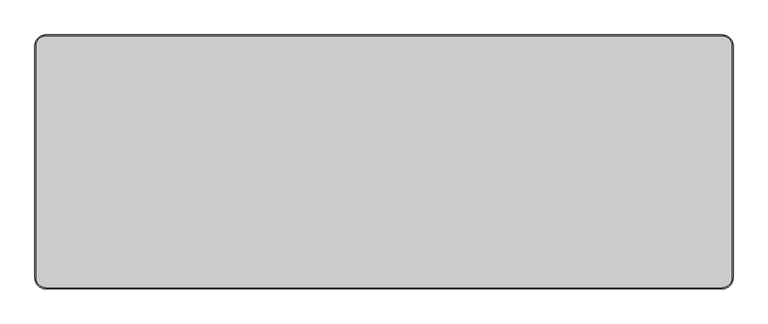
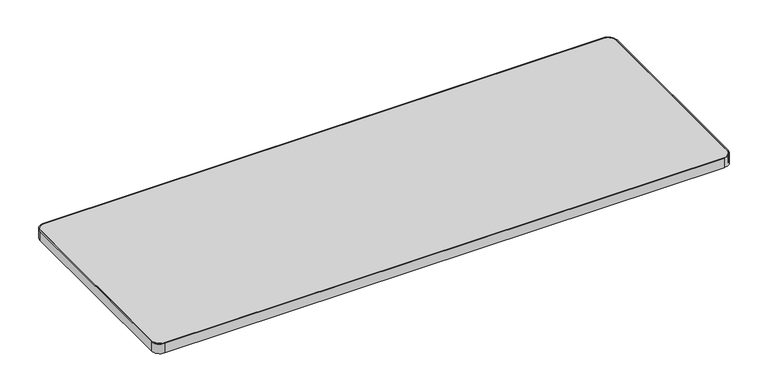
"""IFC4 building model written with IfcOpenShell, lengths in millimetres: furniture geometry, Steelcase - Groupwork - Table - Top - Rectangular : 24D x 66W - HPL."""

from ifc_helpers import new_model, si_unit, point, frame, frame_2d, origin, place, context, project, spatial, polyline, circle_curve, trimmed, segment, composite_curve, outline, extrude, source, transform, mapped, element, save


def furniture_efd10311(model_context):
    return source(origin(), model_context, "Body", "SweptSolid", [
        extrude(outline(composite_curve([segment(polyline([(-840.74, 301.8), (783.94, 301.8)]), True, "CONTINUOUS"), segment(trimmed(circle_curve(frame_2d((783.94, 278.94)), 22.86), [point((783.94, 301.8))], [point((806.8, 278.94))], False, "CARTESIAN"), True, "CONTINUOUS"), segment(polyline([(806.8, 278.94), (806.8, -278.94)]), True, "CONTINUOUS"), segment(trimmed(circle_curve(frame_2d((783.94, -278.94)), 22.86), [point((806.8, -278.94))], [point((783.94, -301.8))], False, "CARTESIAN"), True, "CONTINUOUS"), segment(polyline([(783.94, -301.8), (-840.74, -301.8)]), True, "CONTINUOUS"), segment(trimmed(circle_curve(frame_2d((-840.74, -278.94)), 22.86), [point((-840.74, -301.8))], [point((-863.6, -278.94))], False, "CARTESIAN"), True, "CONTINUOUS"), segment(polyline([(-863.6, -278.94), (-863.6, 278.94)]), True, "CONTINUOUS"), segment(trimmed(circle_curve(frame_2d((-840.74, 278.94)), 22.86), [point((-863.6, 278.94))], [point((-840.74, 301.8))], False, "CARTESIAN"), True, "CONTINUOUS")], self_intersect=False)), frame((0.0, 0.0, 694.944), z_axis=(0.0, 0.0, 1.0), x_axis=(1.0, 0.0, 0.0)), (0.0, 0.0, 1.0), 28.956),
        extrude(outline(composite_curve([segment(trimmed(circle_curve(frame_2d((784.3385373, 279.3385373)), 25.4614627), [point((784.3385373, 304.8))], [point((809.8, 279.3385373))], False, "CARTESIAN"), True, "CONTINUOUS"), segment(polyline([(809.8, 279.3385373), (809.8, -279.4211297)]), True, "CONTINUOUS"), segment(trimmed(circle_curve(frame_2d((784.4211297, -279.4211297)), 25.3788703), [point((809.8, -279.4211297))], [point((784.4211297, -304.8))], False, "CARTESIAN"), True, "CONTINUOUS"), segment(polyline([(784.4211297, -304.8), (-841.2, -304.8)]), True, "CONTINUOUS"), segment(trimmed(circle_curve(frame_2d((-841.2, -279.4)), 25.4), [point((-841.2, -304.8))], [point((-866.6, -279.4))], False, "CARTESIAN"), True, "CONTINUOUS"), segment(polyline([(-866.6, -279.4), (-866.6, 279.4)]), True, "CONTINUOUS"), segment(trimmed(circle_curve(frame_2d((-841.2, 279.4)), 25.4), [point((-866.6, 279.4))], [point((-841.2, 304.8))], False, "CARTESIAN"), True, "CONTINUOUS"), segment(polyline([(-841.2, 304.8), (784.3385373, 304.8)]), True, "CONTINUOUS")], self_intersect=False), holes=[composite_curve([segment(polyline([(784.0064662, 301.8), (-840.74, 301.8)]), True, "CONTINUOUS"), segment(trimmed(circle_curve(frame_2d((-840.74, 278.94)), 22.86), [point((-840.74, 301.8))], [point((-863.6, 278.94))], True, "CARTESIAN"), True, "CONTINUOUS"), segment(polyline([(-863.6, 278.94), (-863.6, -278.94)]), True, "CONTINUOUS"), segment(trimmed(circle_curve(frame_2d((-840.74, -278.94)), 22.86), [point((-863.6, -278.94))], [point((-840.74, -301.8))], True, "CARTESIAN"), True, "CONTINUOUS"), segment(polyline([(-840.74, -301.8), (783.773488, -301.8)]), True, "CONTINUOUS"), segment(trimmed(circle_curve(frame_2d((783.773488, -278.773488)), 23.026512), [point((783.773488, -301.8))], [point((806.8, -278.773488))], True, "CARTESIAN"), True, "CONTINUOUS"), segment(polyline([(806.8, -278.773488), (806.8, 279.0064662)]), True, "CONTINUOUS"), segment(trimmed(circle_curve(frame_2d((784.0064662, 279.0064662)), 22.7935338), [point((806.8, 279.0064662))], [point((784.0064662, 301.8))], True, "CARTESIAN"), True, "CONTINUOUS")], self_intersect=False)]), frame((0.0, 0.0, 694.944), z_axis=(0.0, 0.0, 1.0), x_axis=(1.0, 0.0, 0.0)), (0.0, 0.0, 1.0), 28.956),
    ])


if __name__ == "__main__":
    model = new_model("IFC4")
    model_context = context("Model", 3, world=origin())
    ifc_project = project(units=[si_unit("LENGTHUNIT", "METRE", prefix="MILLI")], contexts=[model_context])
    site = spatial("IfcSite", under=ifc_project)
    building = spatial("IfcBuilding", under=site)
    placement = place(None, origin())
    furniture_shape = furniture_efd10311(model_context)
    element("IfcFurniture", 1, ObjectType="Steelcase - Groupwork - Table - Top - Rectangular : 24D x 66W - HPL", at=placement, inside=building, context=model_context, shape_type="MappedRepresentation", body=[
        mapped(furniture_shape, transform((0.0, 0.0, 0.0), x_axis=(1.0, 0.0, 0.0), y_axis=(0.0, 1.0, 0.0), z_axis=(0.0, 0.0, 1.0))),
    ])
    save(model, "model.ifc")
